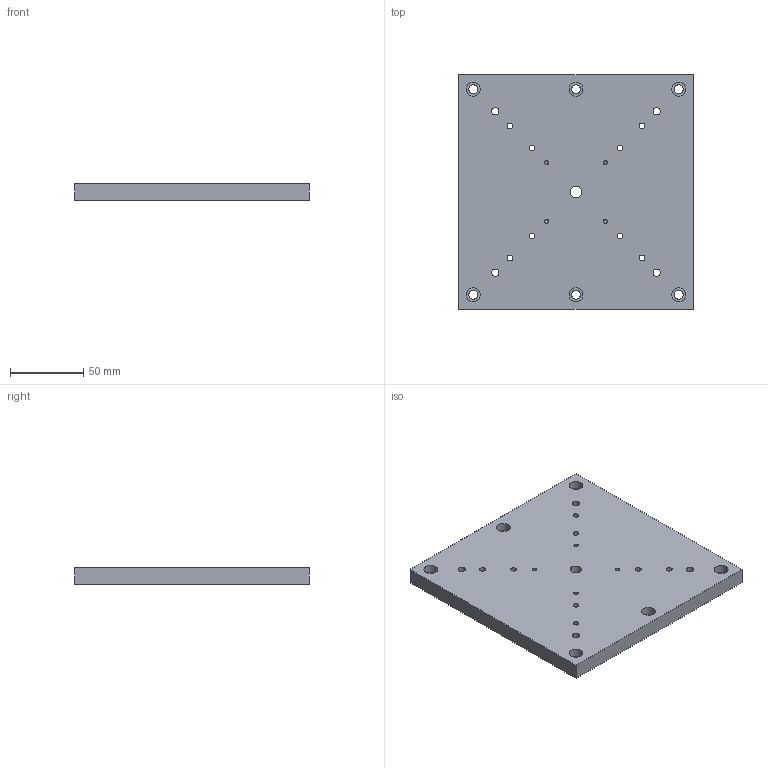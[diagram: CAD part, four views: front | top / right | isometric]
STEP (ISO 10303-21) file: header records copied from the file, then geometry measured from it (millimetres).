
FILE_DESCRIPTION( (''), '2;1');
FILE_NAME ('OTX160-K.stp','2020-07-21T17:29:44',(''),(''),'spGate 15.6.6','','');
FILE_SCHEMA (('AUTOMOTIVE_DESIGN'));
Length unit declared in the file: millimetre
Products named in the file (2): Assembly; OTX160-K-prt0
Assembly tree (1 placements, depth 2):
  Assembly
    OTX160-K-prt0
Bounding box: 160 x 160 x 11 mm (x, y, z)
Volume: 275406.5 mm3; surface area: 61516.6 mm2
Topology: 1 solids, 1 shells, 94 faces, 247 edges, 157 vertices
Faces by surface type: cylinder 66, bspline 16, plane 12
Entity records: 4897 total; most frequent: CARTESIAN_POINT 734, ORIENTED_EDGE 478, DIRECTION 458, COLOUR_RGB 334, PRESENTATION_STYLE_ASSIGNMENT 334, STYLED_ITEM 334, EDGE_CURVE 239, DRAUGHTING_PRE_DEFINED_CURVE_FONT 239
